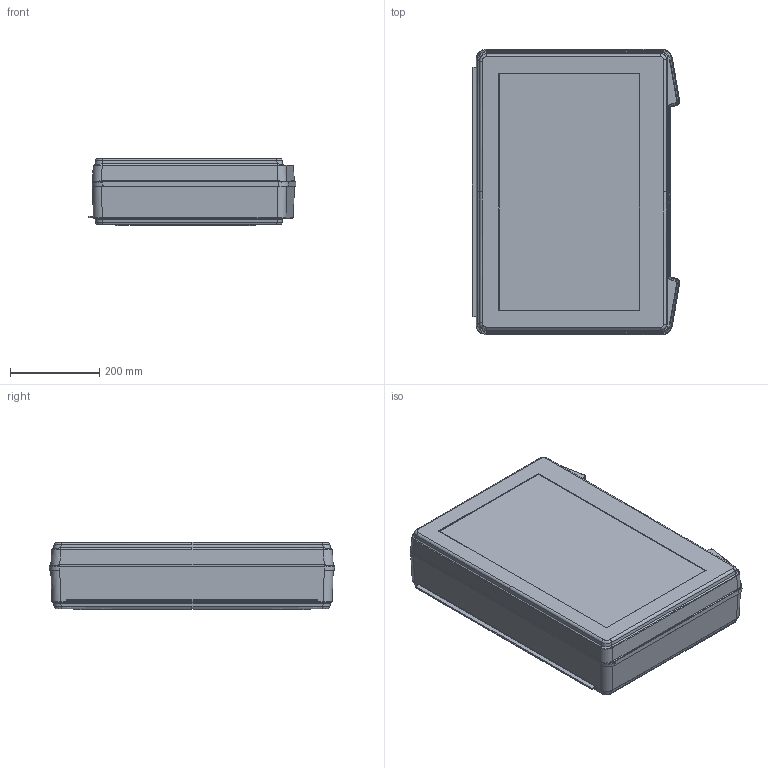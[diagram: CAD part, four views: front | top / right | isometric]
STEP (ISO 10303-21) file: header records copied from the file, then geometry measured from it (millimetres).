
FILE_DESCRIPTION(/* description */ (''),/* implementation_level */ '2;1');
FILE_NAME(/* name */ 'T146_Case_OT-UT.stp',/* time_stamp */ '2014-10-06T10:06:05+02:00',/* author */ (''),/* organization */ (''),/* preprocessor_version */ 'ST-DEVELOPER v15',/* originating_system */ 'SIEMENS PLM Software NX 8.5',/* authorisation */ '');
FILE_SCHEMA (('AUTOMOTIVE_DESIGN { 1 0 10303 214 3 1 1 1 }'));
Products named in the file (1): pk1A9099730hgd
Bounding box: 465.59 x 639.19 x 150.5 mm (x, y, z)
Volume: 3149819.9 mm3; surface area: 1702710.8 mm2
Topology: 2 solids, 2 shells, 1196 faces, 3064 edges, 1837 vertices
Faces by surface type: bspline 563, cylinder 320, plane 264, sphere 28, cone 20, extrusion 1
Entity records: 95989 total; most frequent: CARTESIAN_POINT 71657, ORIENTED_EDGE 6048, DIRECTION 3756, EDGE_CURVE 3024, VERTEX_POINT 1837, AXIS2_PLACEMENT_3D 1285, EDGE_LOOP 1201, ADVANCED_FACE 1196
